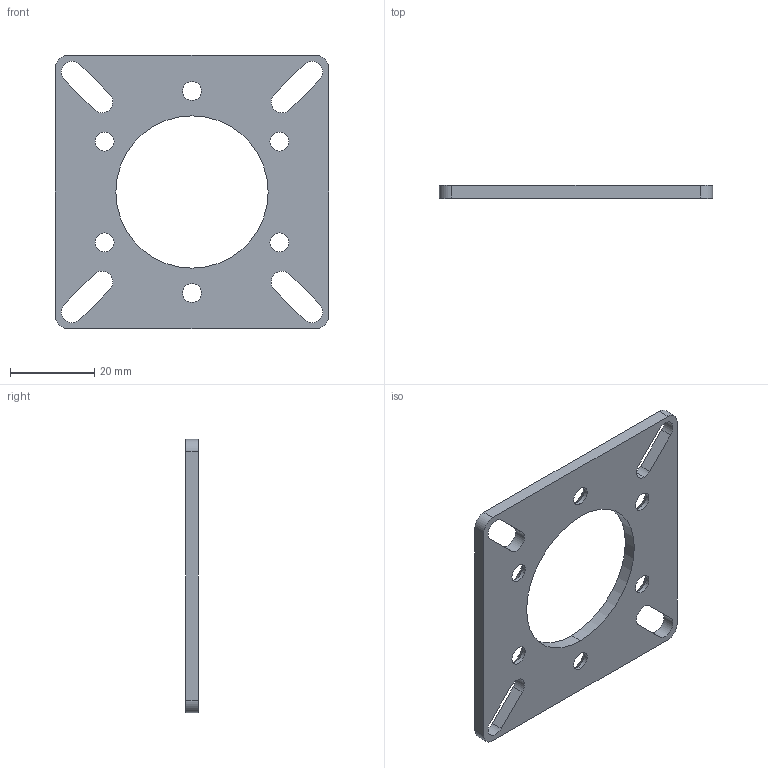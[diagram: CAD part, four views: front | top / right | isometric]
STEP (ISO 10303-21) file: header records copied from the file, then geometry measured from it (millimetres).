
FILE_DESCRIPTION (( 'STEP AP214' ), '1' );
FILE_NAME ('LMASD-21-7（V1.01）编码器支架.STEP', '2022-05-21T09:18:31', ( 'China' ), ( 'Home' ), 'SwSTEP 2.0', 'SolidWorks 2016', '' );
FILE_SCHEMA (( 'AUTOMOTIVE_DESIGN' ));
Length unit declared in the file: millimetre
Products named in the file (1): LMASD-21-7（V1.01）编码器支架
Bounding box: 65 x 3 x 65 mm (x, y, z)
Volume: 8166.7 mm3; surface area: 7326.5 mm2
Topology: 1 solids, 1 shells, 56 faces, 150 edges, 96 vertices
Faces by surface type: cylinder 30, plane 14, cone 12
Entity records: 1848 total; most frequent: DIRECTION 336, CARTESIAN_POINT 303, ORIENTED_EDGE 300, EDGE_CURVE 150, AXIS2_PLACEMENT_3D 129, VERTEX_POINT 96, LINE 78, EDGE_LOOP 78
